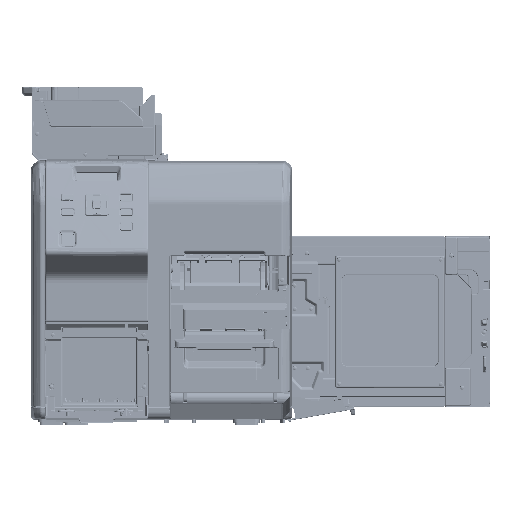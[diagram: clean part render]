
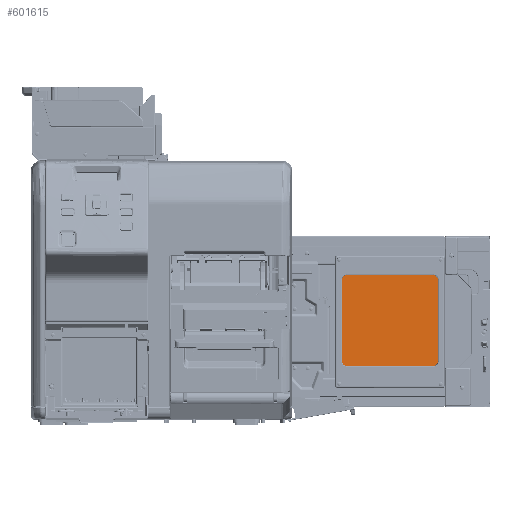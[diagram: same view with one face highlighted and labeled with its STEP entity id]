
A CAD part, top view. The second image highlights one B-rep face of the part: STEP entity #601615.
In plain terms, the highlighted planar face has unit normal (0.052, 0, 0.999).
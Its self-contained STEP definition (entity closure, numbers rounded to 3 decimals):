
#600390=CARTESIAN_POINT('',(368.312,-27.063,
-428.893));
#600391=CARTESIAN_POINT('',(368.62,-27.063,
-428.909));
#600392=CARTESIAN_POINT('',(369.198,-27.101,
-428.94));
#600393=CARTESIAN_POINT('',(369.982,-27.241,
-428.981));
#600394=CARTESIAN_POINT('',(370.699,-27.447,
-429.018));
#600395=CARTESIAN_POINT('',(371.58,-27.798,
-429.064));
#600396=CARTESIAN_POINT('',(372.559,-28.359,
-429.116));
#600397=CARTESIAN_POINT('',(373.563,-29.203,
-429.168));
#600398=CARTESIAN_POINT('',(374.405,-30.208,-429.213));
#600399=CARTESIAN_POINT('',(374.966,-31.188,
-429.242));
#600400=CARTESIAN_POINT('',(375.316,-32.071,
-429.26));
#600401=CARTESIAN_POINT('',(375.522,-32.789,
-429.271));
#600402=CARTESIAN_POINT('',(375.662,-33.574,
-429.278));
#600403=CARTESIAN_POINT('',(375.7,-34.152,
-429.28));
#600404=CARTESIAN_POINT('',(375.7,-34.461,
-429.28));
#600406=DIRECTION('',(0.,-1.,0.));
#600407=VECTOR('',#600406,121.079);
#600408=CARTESIAN_POINT('',(375.7,-34.461,
-429.28));
#600409=LINE('',#600408,#600407);
#600410=CARTESIAN_POINT('',(375.7,-155.539,
-429.28));
#600411=CARTESIAN_POINT('',(375.7,-155.848,
-429.28));
#600412=CARTESIAN_POINT('',(375.662,-156.426,
-429.278));
#600413=CARTESIAN_POINT('',(375.522,-157.211,
-429.271));
#600414=CARTESIAN_POINT('',(375.316,-157.929,
-429.26));
#600415=CARTESIAN_POINT('',(374.966,-158.812,
-429.242));
#600416=CARTESIAN_POINT('',(374.405,-159.792,-429.213));
#600417=CARTESIAN_POINT('',(373.563,-160.797,
-429.168));
#600418=CARTESIAN_POINT('',(372.559,-161.641,
-429.116));
#600419=CARTESIAN_POINT('',(371.58,-162.202,
-429.064));
#600420=CARTESIAN_POINT('',(370.699,-162.553,
-429.018));
#600421=CARTESIAN_POINT('',(369.982,-162.759,
-428.981));
#600422=CARTESIAN_POINT('',(369.198,-162.899,
-428.94));
#600423=CARTESIAN_POINT('',(368.62,-162.937,
-428.909));
#600424=CARTESIAN_POINT('',(368.312,-162.937,
-428.893));
#600426=DIRECTION('',(0.999,0.,-0.052));
#600427=VECTOR('',#600426,129.079);
#600428=CARTESIAN_POINT('',(239.411,-162.937,
-422.138));
#600429=LINE('',#600428,#600427);
#600430=CARTESIAN_POINT('',(239.411,-162.937,
-422.138));
#600431=CARTESIAN_POINT('',(239.103,-162.937,
-422.122));
#600432=CARTESIAN_POINT('',(238.525,-162.899,
-422.091));
#600433=CARTESIAN_POINT('',(237.741,-162.759,
-422.05));
#600434=CARTESIAN_POINT('',(237.024,-162.553,
-422.013));
#600435=CARTESIAN_POINT('',(236.142,-162.202,
-421.966));
#600436=CARTESIAN_POINT('',(235.164,-161.641,
-421.915));
#600437=CARTESIAN_POINT('',(234.16,-160.797,
-421.863));
#600438=CARTESIAN_POINT('',(233.317,-159.792,
-421.818));
#600439=CARTESIAN_POINT('',(232.756,-158.812,
-421.789));
#600440=CARTESIAN_POINT('',(232.407,-157.929,
-421.771));
#600441=CARTESIAN_POINT('',(232.201,-157.211,
-421.76));
#600442=CARTESIAN_POINT('',(232.061,-156.426,
-421.753));
#600443=CARTESIAN_POINT('',(232.023,-155.848,
-421.751));
#600444=CARTESIAN_POINT('',(232.023,-155.539,
-421.751));
#600446=DIRECTION('',(0.,-1.,0.));
#600447=VECTOR('',#600446,121.079);
#600448=CARTESIAN_POINT('',(232.023,-34.461,
-421.751));
#600449=LINE('',#600448,#600447);
#600450=CARTESIAN_POINT('',(232.023,-34.461,
-421.751));
#600451=CARTESIAN_POINT('',(232.023,-34.152,
-421.751));
#600452=CARTESIAN_POINT('',(232.061,-33.574,
-421.753));
#600453=CARTESIAN_POINT('',(232.201,-32.789,
-421.76));
#600454=CARTESIAN_POINT('',(232.407,-32.071,
-421.771));
#600455=CARTESIAN_POINT('',(232.756,-31.188,
-421.789));
#600456=CARTESIAN_POINT('',(233.317,-30.208,
-421.818));
#600457=CARTESIAN_POINT('',(234.16,-29.203,
-421.863));
#600458=CARTESIAN_POINT('',(235.164,-28.359,
-421.915));
#600459=CARTESIAN_POINT('',(236.142,-27.798,
-421.966));
#600460=CARTESIAN_POINT('',(237.024,-27.447,
-422.013));
#600461=CARTESIAN_POINT('',(237.741,-27.241,
-422.05));
#600462=CARTESIAN_POINT('',(238.525,-27.101,
-422.091));
#600463=CARTESIAN_POINT('',(239.103,-27.063,
-422.122));
#600464=CARTESIAN_POINT('',(239.411,-27.063,
-422.138));
#600466=DIRECTION('',(-0.999,0.,0.052));
#600467=VECTOR('',#600466,129.079);
#600468=CARTESIAN_POINT('',(368.312,-27.063,
-428.893));
#600469=LINE('',#600468,#600467);
#601178=VERTEX_POINT('',#600390);
#601179=VERTEX_POINT('',#600404);
#601180=VERTEX_POINT('',#600450);
#601181=VERTEX_POINT('',#600464);
#601182=VERTEX_POINT('',#600410);
#601183=VERTEX_POINT('',#600424);
#601184=VERTEX_POINT('',#600430);
#601185=VERTEX_POINT('',#600444);
#601592=CARTESIAN_POINT('',(385.449,-195.7,-429.791));
#601593=DIRECTION('',(-0.052,0.,-0.999));
#601594=DIRECTION('',(-0.999,0.,0.052));
#601595=AXIS2_PLACEMENT_3D('',#601592,#601593,#601594);
#601596=PLANE('',#601595);
#601598=ORIENTED_EDGE('',*,*,#601597,.T.);
#601600=ORIENTED_EDGE('',*,*,#601599,.T.);
#601602=ORIENTED_EDGE('',*,*,#601601,.T.);
#601604=ORIENTED_EDGE('',*,*,#601603,.F.);
#601606=ORIENTED_EDGE('',*,*,#601605,.T.);
#601608=ORIENTED_EDGE('',*,*,#601607,.F.);
#601610=ORIENTED_EDGE('',*,*,#601609,.T.);
#601612=ORIENTED_EDGE('',*,*,#601611,.F.);
#601613=EDGE_LOOP('',(#601598,#601600,#601602,#601604,#601606,#601608,#601610,
#601612));
#601614=FACE_OUTER_BOUND('',#601613,.F.);
#600405=B_SPLINE_CURVE_WITH_KNOTS('',3,(#600390,#600391,#600392,#600393,#600394,
#600395,#600396,#600397,#600398,#600399,#600400,#600401,#600402,#600403,
#600404),.UNSPECIFIED.,.F.,.F.,(4,1,1,1,1,1,1,1,1,1,1,1,4),(0.,0.063,
0.125,0.188,0.25,0.375,0.5,0.625,0.75,0.813,0.875,0.938,
1.),.UNSPECIFIED.);
#600425=B_SPLINE_CURVE_WITH_KNOTS('',3,(#600410,#600411,#600412,#600413,#600414,
#600415,#600416,#600417,#600418,#600419,#600420,#600421,#600422,#600423,
#600424),.UNSPECIFIED.,.F.,.F.,(4,1,1,1,1,1,1,1,1,1,1,1,4),(0.,0.063,
0.125,0.188,0.25,0.375,0.5,0.625,0.75,0.813,0.875,0.938,
1.),.UNSPECIFIED.);
#600445=B_SPLINE_CURVE_WITH_KNOTS('',3,(#600430,#600431,#600432,#600433,#600434,
#600435,#600436,#600437,#600438,#600439,#600440,#600441,#600442,#600443,
#600444),.UNSPECIFIED.,.F.,.F.,(4,1,1,1,1,1,1,1,1,1,1,1,4),(0.,0.063,
0.125,0.188,0.25,0.375,0.5,0.625,0.75,0.813,0.875,0.938,
1.),.UNSPECIFIED.);
#600465=B_SPLINE_CURVE_WITH_KNOTS('',3,(#600450,#600451,#600452,#600453,#600454,
#600455,#600456,#600457,#600458,#600459,#600460,#600461,#600462,#600463,
#600464),.UNSPECIFIED.,.F.,.F.,(4,1,1,1,1,1,1,1,1,1,1,1,4),(0.,0.063,
0.125,0.188,0.25,0.375,0.5,0.625,0.75,0.813,0.875,0.938,
1.),.UNSPECIFIED.);
#601597=EDGE_CURVE('',#601178,#601179,#600405,.T.);
#601599=EDGE_CURVE('',#601179,#601182,#600409,.T.);
#601601=EDGE_CURVE('',#601182,#601183,#600425,.T.);
#601603=EDGE_CURVE('',#601184,#601183,#600429,.T.);
#601605=EDGE_CURVE('',#601184,#601185,#600445,.T.);
#601607=EDGE_CURVE('',#601180,#601185,#600449,.T.);
#601609=EDGE_CURVE('',#601180,#601181,#600465,.T.);
#601611=EDGE_CURVE('',#601178,#601181,#600469,.T.);
#601615=ADVANCED_FACE('',(#601614),#601596,.F.);
